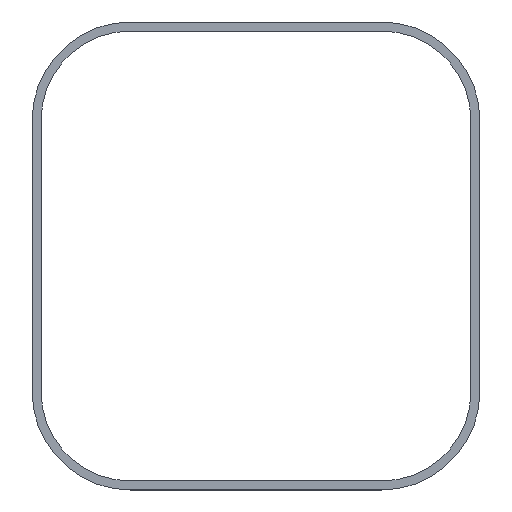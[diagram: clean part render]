
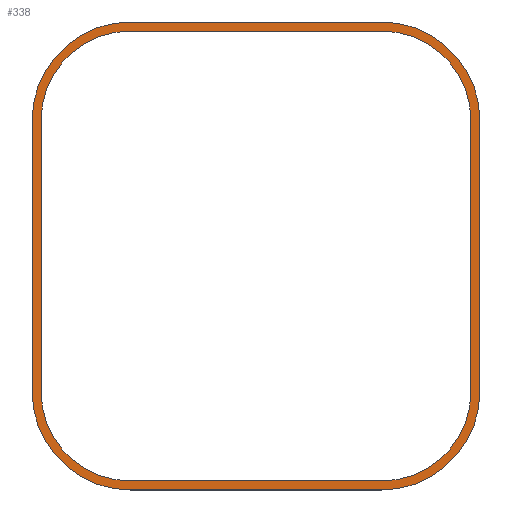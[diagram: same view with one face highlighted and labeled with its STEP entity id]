
A CAD part, top view. The second image highlights one B-rep face of the part: STEP entity #338.
In plain terms, the highlighted planar face has unit normal (0, 0, 1).
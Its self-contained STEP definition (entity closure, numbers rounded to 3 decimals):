
#15=FACE_BOUND('',#55,.T.);
#21=PLANE('',#380);
#36=FACE_OUTER_BOUND('',#54,.T.);
#54=EDGE_LOOP('',(#261,#262,#263,#264,#265,#266,#267,#268));
#55=EDGE_LOOP('',(#269,#270,#271,#272,#273,#274,#275,#276));
#67=LINE('',#509,#99);
#71=LINE('',#521,#103);
#77=LINE('',#541,#109);
#79=LINE('',#544,#111);
#83=LINE('',#557,#115);
#84=LINE('',#561,#116);
#85=LINE('',#565,#117);
#86=LINE('',#568,#118);
#99=VECTOR('',#407,10.);
#103=VECTOR('',#419,10.);
#109=VECTOR('',#439,10.);
#111=VECTOR('',#443,10.);
#115=VECTOR('',#455,10.);
#116=VECTOR('',#458,10.);
#117=VECTOR('',#461,10.);
#118=VECTOR('',#464,10.);
#129=CIRCLE('',#362,8.9);
#131=CIRCLE('',#366,8.9);
#133=CIRCLE('',#370,8.9);
#135=CIRCLE('',#373,8.9);
#138=CIRCLE('',#379,9.8);
#139=CIRCLE('',#381,9.8);
#140=CIRCLE('',#382,9.8);
#141=CIRCLE('',#383,9.8);
#145=VERTEX_POINT('',#499);
#146=VERTEX_POINT('',#500);
#149=VERTEX_POINT('',#508);
#151=VERTEX_POINT('',#514);
#153=VERTEX_POINT('',#520);
#155=VERTEX_POINT('',#526);
#156=VERTEX_POINT('',#527);
#159=VERTEX_POINT('',#535);
#161=VERTEX_POINT('',#547);
#164=VERTEX_POINT('',#552);
#165=VERTEX_POINT('',#556);
#166=VERTEX_POINT('',#558);
#167=VERTEX_POINT('',#560);
#168=VERTEX_POINT('',#562);
#169=VERTEX_POINT('',#564);
#170=VERTEX_POINT('',#566);
#177=EDGE_CURVE('',#145,#146,#129,.T.);
#181=EDGE_CURVE('',#146,#149,#67,.T.);
#184=EDGE_CURVE('',#149,#151,#131,.T.);
#187=EDGE_CURVE('',#151,#153,#71,.T.);
#190=EDGE_CURVE('',#155,#156,#133,.T.);
#194=EDGE_CURVE('',#153,#159,#135,.T.);
#197=EDGE_CURVE('',#159,#155,#77,.T.);
#199=EDGE_CURVE('',#156,#145,#79,.T.);
#204=EDGE_CURVE('',#161,#164,#138,.T.);
#205=EDGE_CURVE('',#164,#165,#83,.T.);
#206=EDGE_CURVE('',#165,#166,#139,.T.);
#207=EDGE_CURVE('',#166,#167,#84,.T.);
#208=EDGE_CURVE('',#167,#168,#140,.T.);
#209=EDGE_CURVE('',#168,#169,#85,.T.);
#210=EDGE_CURVE('',#169,#170,#141,.T.);
#211=EDGE_CURVE('',#170,#161,#86,.T.);
#261=ORIENTED_EDGE('',*,*,#205,.T.);
#262=ORIENTED_EDGE('',*,*,#206,.T.);
#263=ORIENTED_EDGE('',*,*,#207,.T.);
#264=ORIENTED_EDGE('',*,*,#208,.T.);
#265=ORIENTED_EDGE('',*,*,#209,.T.);
#266=ORIENTED_EDGE('',*,*,#210,.T.);
#267=ORIENTED_EDGE('',*,*,#211,.T.);
#268=ORIENTED_EDGE('',*,*,#204,.T.);
#269=ORIENTED_EDGE('',*,*,#194,.T.);
#270=ORIENTED_EDGE('',*,*,#197,.T.);
#271=ORIENTED_EDGE('',*,*,#190,.T.);
#272=ORIENTED_EDGE('',*,*,#199,.T.);
#273=ORIENTED_EDGE('',*,*,#177,.T.);
#274=ORIENTED_EDGE('',*,*,#181,.T.);
#275=ORIENTED_EDGE('',*,*,#184,.T.);
#276=ORIENTED_EDGE('',*,*,#187,.T.);
#338=ADVANCED_FACE('',(#36,#15),#21,.T.);
#362=AXIS2_PLACEMENT_3D('',#501,#399,#400);
#366=AXIS2_PLACEMENT_3D('',#515,#412,#413);
#370=AXIS2_PLACEMENT_3D('',#528,#424,#425);
#373=AXIS2_PLACEMENT_3D('',#536,#432,#433);
#379=AXIS2_PLACEMENT_3D('',#554,#451,#452);
#380=AXIS2_PLACEMENT_3D('',#555,#453,#454);
#381=AXIS2_PLACEMENT_3D('',#559,#456,#457);
#382=AXIS2_PLACEMENT_3D('',#563,#459,#460);
#383=AXIS2_PLACEMENT_3D('',#567,#462,#463);
#399=DIRECTION('center_axis',(0.,0.,-1.));
#400=DIRECTION('ref_axis',(1.,0.,0.));
#407=DIRECTION('',(0.,-1.,0.));
#412=DIRECTION('center_axis',(0.,0.,-1.));
#413=DIRECTION('ref_axis',(1.,0.,0.));
#419=DIRECTION('',(-1.,0.,0.));
#424=DIRECTION('center_axis',(0.,0.,-1.));
#425=DIRECTION('ref_axis',(1.,0.,0.));
#432=DIRECTION('center_axis',(0.,0.,-1.));
#433=DIRECTION('ref_axis',(1.,0.,0.));
#439=DIRECTION('',(0.,1.,0.));
#443=DIRECTION('',(1.,0.,0.));
#451=DIRECTION('center_axis',(0.,0.,1.));
#452=DIRECTION('ref_axis',(1.,0.,0.));
#453=DIRECTION('center_axis',(0.,0.,1.));
#454=DIRECTION('ref_axis',(1.,0.,0.));
#455=DIRECTION('',(-1.,0.,0.));
#456=DIRECTION('center_axis',(0.,0.,1.));
#457=DIRECTION('ref_axis',(1.,0.,0.));
#458=DIRECTION('',(0.,-1.,0.));
#459=DIRECTION('center_axis',(0.,0.,1.));
#460=DIRECTION('ref_axis',(1.,0.,0.));
#461=DIRECTION('',(1.,0.,0.));
#462=DIRECTION('center_axis',(0.,0.,1.));
#463=DIRECTION('ref_axis',(1.,0.,0.));
#464=DIRECTION('',(0.,1.,0.));
#499=CARTESIAN_POINT('',(12.5,59.9,-0.25));
#500=CARTESIAN_POINT('',(21.4,51.,-0.25));
#501=CARTESIAN_POINT('Origin',(12.5,51.,-0.25));
#508=CARTESIAN_POINT('',(21.4,24.,-0.25));
#509=CARTESIAN_POINT('',(21.4,37.5,-0.25));
#514=CARTESIAN_POINT('',(12.5,15.1,-0.25));
#515=CARTESIAN_POINT('Origin',(12.5,24.,-0.25));
#520=CARTESIAN_POINT('',(-12.5,15.1,-0.25));
#521=CARTESIAN_POINT('',(0.,15.1,-0.25));
#526=CARTESIAN_POINT('',(-21.4,51.,-0.25));
#527=CARTESIAN_POINT('',(-12.5,59.9,-0.25));
#528=CARTESIAN_POINT('Origin',(-12.5,51.,-0.25));
#535=CARTESIAN_POINT('',(-21.4,24.,-0.25));
#536=CARTESIAN_POINT('Origin',(-12.5,24.,-0.25));
#541=CARTESIAN_POINT('',(-21.4,37.5,-0.25));
#544=CARTESIAN_POINT('',(0.,59.9,-0.25));
#547=CARTESIAN_POINT('',(22.3,51.,-0.25));
#552=CARTESIAN_POINT('',(12.5,60.8,-0.25));
#554=CARTESIAN_POINT('Origin',(12.5,51.,-0.25));
#555=CARTESIAN_POINT('Origin',(0.,37.5,-0.25));
#556=CARTESIAN_POINT('',(-12.5,60.8,-0.25));
#557=CARTESIAN_POINT('',(0.,60.8,-0.25));
#558=CARTESIAN_POINT('',(-22.3,51.,-0.25));
#559=CARTESIAN_POINT('Origin',(-12.5,51.,-0.25));
#560=CARTESIAN_POINT('',(-22.3,24.,-0.25));
#561=CARTESIAN_POINT('',(-22.3,37.5,-0.25));
#562=CARTESIAN_POINT('',(-12.5,14.2,-0.25));
#563=CARTESIAN_POINT('Origin',(-12.5,24.,-0.25));
#564=CARTESIAN_POINT('',(12.5,14.2,-0.25));
#565=CARTESIAN_POINT('',(0.,14.2,-0.25));
#566=CARTESIAN_POINT('',(22.3,24.,-0.25));
#567=CARTESIAN_POINT('Origin',(12.5,24.,-0.25));
#568=CARTESIAN_POINT('',(22.3,37.5,-0.25));
